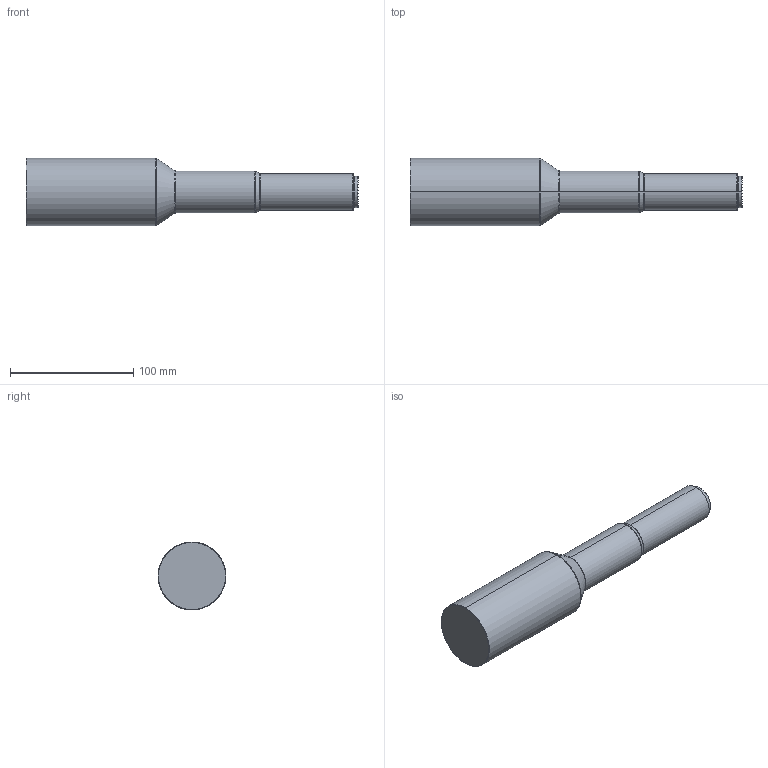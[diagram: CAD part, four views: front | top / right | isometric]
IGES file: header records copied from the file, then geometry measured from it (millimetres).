
Start section: SolidWorks IGES file using analytic representation for surfaces
Global section: file name: C:\Users\16255\Desktop\WWH20-300AT-230V2.IGS; native system: SolidWorks 2017; preprocessor: SolidWorks 2017; author: 16255; date: 211015.172545; units: millimetre
Bounding box: 269.3 x 55 x 55 mm (x, y, z)
Surface area: 38749.1 mm2 (no closed solid volume)
Topology: 0 solids, 0 shells, 32 faces, 368 edges, 368 vertices
Faces by surface type: revolution 20, bspline 12
